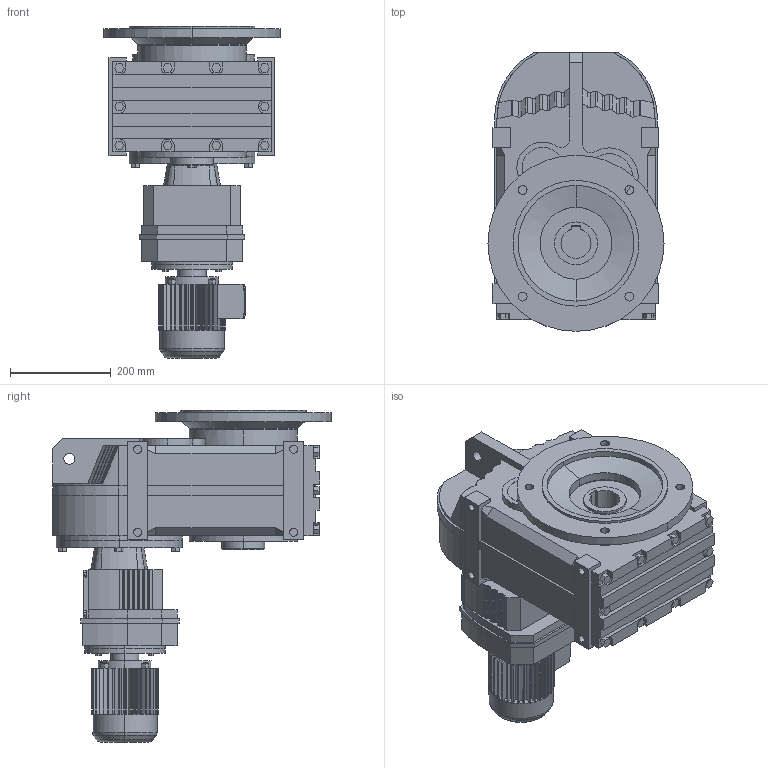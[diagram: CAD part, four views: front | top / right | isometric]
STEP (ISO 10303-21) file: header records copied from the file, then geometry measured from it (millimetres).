
FILE_DESCRIPTION(('Open CASCADE Model'),'2;1');
FILE_NAME('Open CASCADE Shape Model','2021-07-24T11:22:33',('Author'),( 'Open CASCADE'),'Open CASCADE STEP processor 6.3','Open CASCADE 6.3' ,'Unknown');
FILE_SCHEMA(('AUTOMOTIVE_DESIGN_CC2 { 1 2 10303 214 -1 1 5 4 }'));
Length unit declared in the file: millimetre
Products named in the file (6): 1_FAF87R57DR63; FAZ27‵157_87.step; 萇儂_160-DR63-185-240-132-105.step; R_87_57.step; す瑩諾陑粣F_87.step; 楊擘F_87.step
Assembly tree (5 placements, depth 2):
  1_FAF87R57DR63
    FAZ27‵157_87.step
    萇儂_160-DR63-185-240-132-105.step
    R_87_57.step
    す瑩諾陑粣F_87.step
    楊擘F_87.step
Bounding box: 350 x 554 x 660 mm (x, y, z)
Volume: 38673706.6 mm3; surface area: 1603922.2 mm2
Topology: 5 solids, 5 shells, 1030 faces, 2721 edges, 1780 vertices
Faces by surface type: plane 755, cylinder 241, bspline 16, cone 14, torus 4
Entity records: 69178 total; most frequent: CARTESIAN_POINT 16480, DIRECTION 9294, LINE 5501, VECTOR 5501, ORIENTED_EDGE 5442, PCURVE 5442, DEFINITIONAL_REPRESENTATION 5442, EDGE_CURVE 2721
